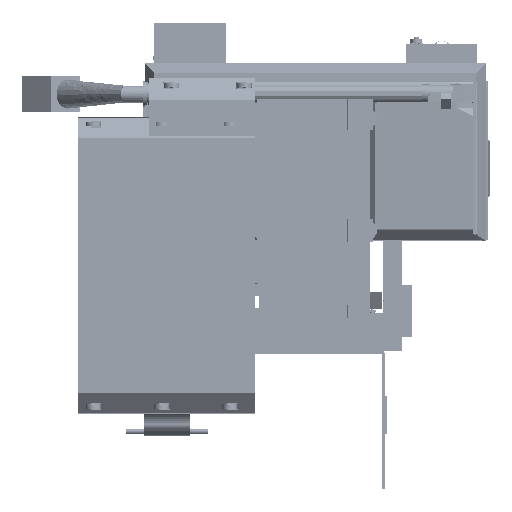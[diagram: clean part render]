
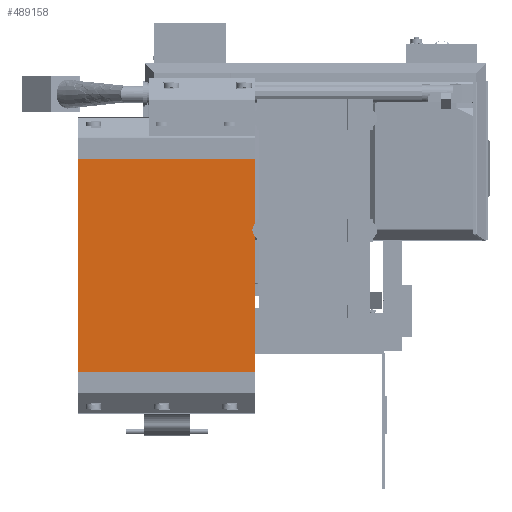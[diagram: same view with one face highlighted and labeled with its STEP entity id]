
A CAD part, front view. The second image highlights one B-rep face of the part: STEP entity #489158.
In plain terms, the highlighted planar face has unit normal (0, -1, 0).
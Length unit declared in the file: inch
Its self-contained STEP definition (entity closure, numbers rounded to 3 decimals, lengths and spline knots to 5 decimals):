
#11609 = EDGE_CURVE ( 'NONE', #254581, #144487, #446530, .T. ) ;
#43894 = ORIENTED_EDGE ( 'NONE', *, *, #497963, .T. ) ;
#53981 = CARTESIAN_POINT ( 'NONE',  ( -68.21, -19.4571, -22.54 ) ) ;
#56081 = AXIS2_PLACEMENT_3D ( 'NONE', #445383, #257743, #251574 ) ;
#77412 = DIRECTION ( 'NONE',  ( 0., 0., -1. ) ) ;
#86164 = CARTESIAN_POINT ( 'NONE',  ( -68.21, -19.4571, -22.54 ) ) ;
#95262 = CARTESIAN_POINT ( 'NONE',  ( -21.5, -19.4571, 33.76 ) ) ;
#128016 = ORIENTED_EDGE ( 'NONE', *, *, #466801, .F. ) ;
#136196 = FACE_OUTER_BOUND ( 'NONE', #309497, .T. ) ;
#139261 = PLANE ( 'NONE',  #56081 ) ;
#144487 = VERTEX_POINT ( 'NONE', #53981 ) ;
#186087 = LINE ( 'NONE', #86164, #502562 ) ;
#198803 = LINE ( 'NONE', #389383, #404121 ) ;
#245333 = VERTEX_POINT ( 'NONE', #572012 ) ;
#251574 = DIRECTION ( 'NONE',  ( 1., 0., 0. ) ) ;
#254581 = VERTEX_POINT ( 'NONE', #504752 ) ;
#257743 = DIRECTION ( 'NONE',  ( 0., -1., 0. ) ) ;
#304881 = CARTESIAN_POINT ( 'NONE',  ( -21.5, -19.4571, -27.94 ) ) ;
#309497 = EDGE_LOOP ( 'NONE', ( #425491, #128016, #384749, #43894 ) ) ;
#325659 = VECTOR ( 'NONE', #436301, 39.37008 ) ;
#342485 = LINE ( 'NONE', #304881, #325659 ) ;
#380214 = DIRECTION ( 'NONE',  ( 1., 0., 0. ) ) ;
#384749 = ORIENTED_EDGE ( 'NONE', *, *, #11609, .T. ) ;
#389383 = CARTESIAN_POINT ( 'NONE',  ( -68.21, -19.4571, 33.76 ) ) ;
#404121 = VECTOR ( 'NONE', #380214, 39.37008 ) ;
#425491 = ORIENTED_EDGE ( 'NONE', *, *, #430906, .F. ) ;
#430906 = EDGE_CURVE ( 'NONE', #606290, #245333, #342485, .T. ) ;
#436301 = DIRECTION ( 'NONE',  ( 0., 0., -1. ) ) ;
#445383 = CARTESIAN_POINT ( 'NONE',  ( -68.21, -19.4571, -27.94 ) ) ;
#446530 = LINE ( 'NONE', #540351, #578656 ) ;
#466801 = EDGE_CURVE ( 'NONE', #254581, #606290, #198803, .T. ) ;
#489158 = ADVANCED_FACE ( 'NONE', ( #136196 ), #139261, .T. ) ;
#497963 = EDGE_CURVE ( 'NONE', #144487, #245333, #186087, .T. ) ;
#502562 = VECTOR ( 'NONE', #611379, 39.37008 ) ;
#504752 = CARTESIAN_POINT ( 'NONE',  ( -68.21, -19.4571, 33.76 ) ) ;
#540351 = CARTESIAN_POINT ( 'NONE',  ( -68.21, -19.4571, -27.94 ) ) ;
#572012 = CARTESIAN_POINT ( 'NONE',  ( -21.5, -19.4571, -22.54 ) ) ;
#578656 = VECTOR ( 'NONE', #77412, 39.37008 ) ;
#606290 = VERTEX_POINT ( 'NONE', #95262 ) ;
#611379 = DIRECTION ( 'NONE',  ( 1., 0., 0. ) ) ;
